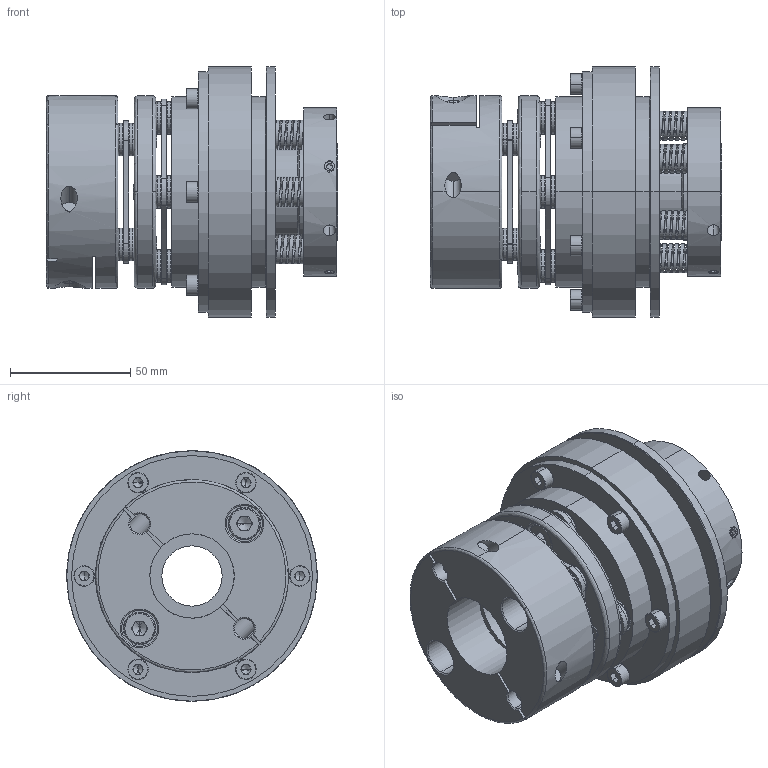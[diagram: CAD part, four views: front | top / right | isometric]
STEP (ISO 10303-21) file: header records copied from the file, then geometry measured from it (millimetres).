
FILE_DESCRIPTION (( 'STEP AP203' ), '1' );
FILE_NAME ('STL55-L-TS7.5-C35-N25.STEP', '2018-12-15T06:56:21', ( '' ), ( '' ), 'SwSTEP 2.0', 'SolidWorks 2015', '' );
FILE_SCHEMA (( 'CONFIG_CONTROL_DESIGN' ));
Length unit declared in the file: millimetre
Products named in the file (1): STL55-L-TS7.5-C35-N25
Bounding box: 120.85 x 104 x 104 mm (x, y, z)
Volume: 472085.6 mm3; surface area: 133517.6 mm2
Topology: 24 solids, 38 shells, 1219 faces, 2977 edges, 1835 vertices
Faces by surface type: plane 400, cylinder 395, cone 217, bspline 207
Entity records: 55250 total; most frequent: CARTESIAN_POINT 27114, DIRECTION 5975, ORIENTED_EDGE 5858, EDGE_CURVE 2929, AXIS2_PLACEMENT_3D 2375, VERTEX_POINT 1835, EDGE_LOOP 1372, CIRCLE 1362
